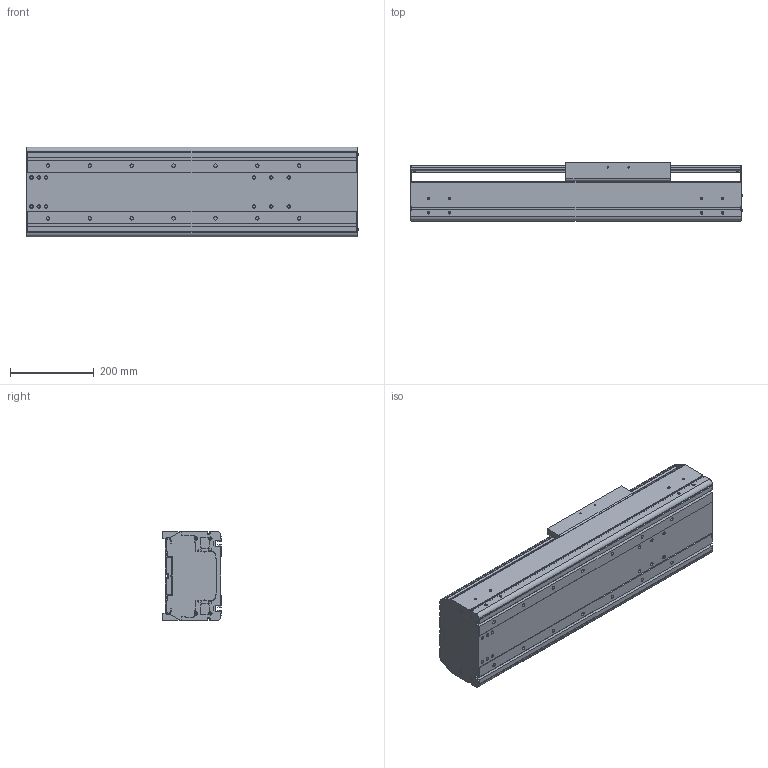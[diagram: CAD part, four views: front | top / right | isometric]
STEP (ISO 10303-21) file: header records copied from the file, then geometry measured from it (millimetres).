
FILE_DESCRIPTION((''),'2;1');
FILE_NAME('BE60J-ST-M_N-30_IGS_PRT','2017-06-18T',(' '),(''),'PRO/ENGINEER BY PARAMETRIC TECHNOLOGY CORPORATION, 2015030','PRO/ENGINEER BY PARAMETRIC TECHNOLOGY CORPORATION, 2015030','');
FILE_SCHEMA(('CONFIG_CONTROL_DESIGN'));
Length unit declared in the file: millimetre
Products named in the file (1): BE60J-ST-M_N-30_IGS_PRT
Bounding box: 792.4 x 140 x 214 mm (x, y, z)
Volume: 6565896 mm3; surface area: 1806004.7 mm2
Topology: 2 solids, 116 shells, 1317 faces, 3592 edges, 2393 vertices
Faces by surface type: cylinder 630, plane 563, cone 76, sphere 24, torus 24
Entity records: 43181 total; most frequent: CARTESIAN_POINT 9300, DIRECTION 7172, ORIENTED_EDGE 6684, EDGE_CURVE 3542, AXIS2_PLACEMENT_3D 2646, VERTEX_POINT 2392, VECTOR 1880, LINE 1880
